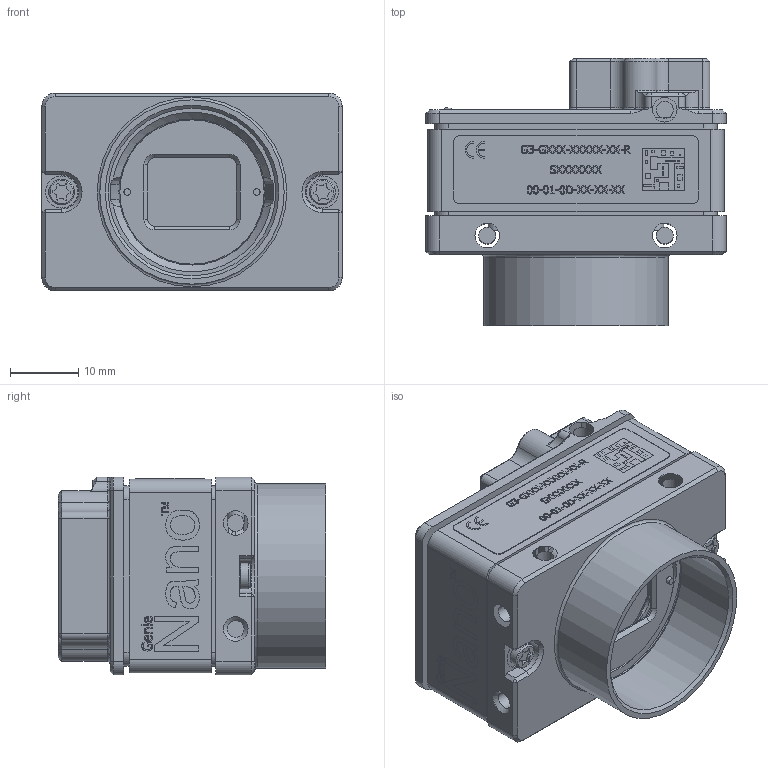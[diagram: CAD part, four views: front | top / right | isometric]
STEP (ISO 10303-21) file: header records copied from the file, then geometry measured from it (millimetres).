
FILE_DESCRIPTION(/* description */ (''),/* implementation_level */ '2;1');
FILE_NAME(/* name */ 'C:\Users\sduhra\Desktop\cad MODELS\NOVA CAMERA ASSEMBLY-SIZE 3 (C-MOUNT) AR18.stp',/* time_stamp */ '2018-07-06T17:21:29-04:00',/* author */ ('sduhra'),/* organization */ (''),/* preprocessor_version */ 'ST-DEVELOPER v17',/* originating_system */ 'Autodesk Inventor 2018',/* authorisation */ '');
FILE_SCHEMA (('AUTOMOTIVE_DESIGN { 1 0 10303 214 3 1 1 }'));
Products named in the file (1): NOVA CAMERA ASSEMBLY-Ar18-cmnt
Bounding box: 44 x 39.21 x 29 mm (x, y, z)
Volume: 26354.4 mm3; surface area: 13886.6 mm2
Topology: 1 solids, 1 shells, 2327 faces, 6281 edges, 4063 vertices
Faces by surface type: plane 1465, cylinder 422, bspline 304, cone 90, torus 38, sphere 8
Full cylindrical faces by diameter (mm): 1.2 x2, 1.567 x4, 1.7 x1, 2 x2, 2.459 x9, 2.6 x2, 3.8 x2, 4.7 x2, 24.536 x1, 25.654 x1, 27 x1
Entity records: 79957 total; most frequent: CARTESIAN_POINT 20921, ORIENTED_EDGE 12548, DIRECTION 10588, EDGE_CURVE 6274, LINE 4454, VECTOR 4454, VERTEX_POINT 4063, AXIS2_PLACEMENT_3D 3067
